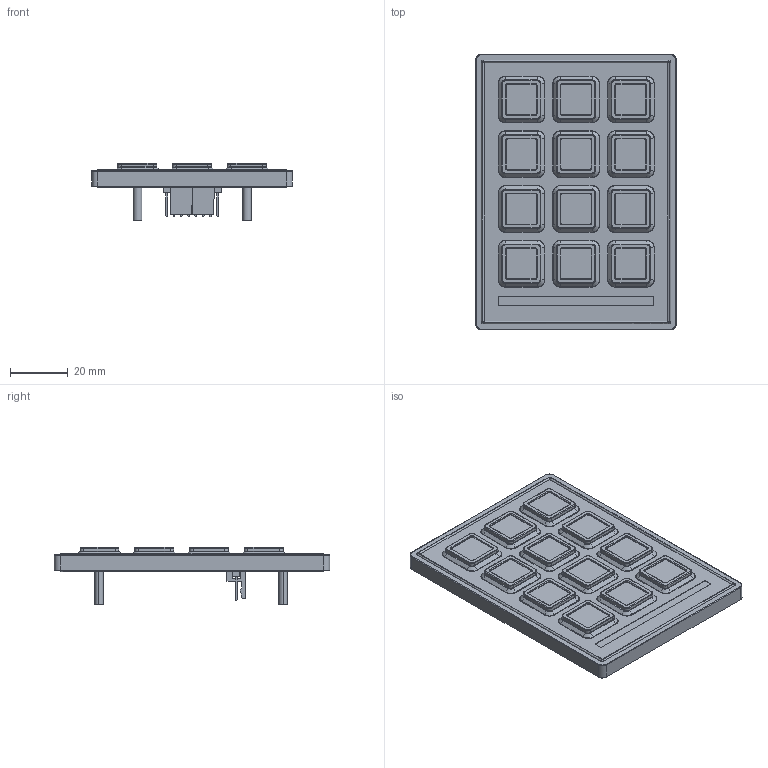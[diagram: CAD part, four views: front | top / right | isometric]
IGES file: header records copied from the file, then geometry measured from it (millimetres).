
Start section: SolidWorks IGES file using analytic representation for surfaces
Global section: file name: C:\Users\rayc\Desktop\070-12-ASSY~1.IGS; native system: SolidWorks 2013; preprocessor: SolidWorks 2013; author: rayc; date: 160229.113752; units: millimetre
Bounding box: 69.72 x 95.62 x 19.8 mm (x, y, z)
Surface area: 28512.2 mm2 (no closed solid volume)
Topology: 0 solids, 0 shells, 958 faces, 6957 edges, 6957 vertices
Faces by surface type: bspline 562, revolution 396
